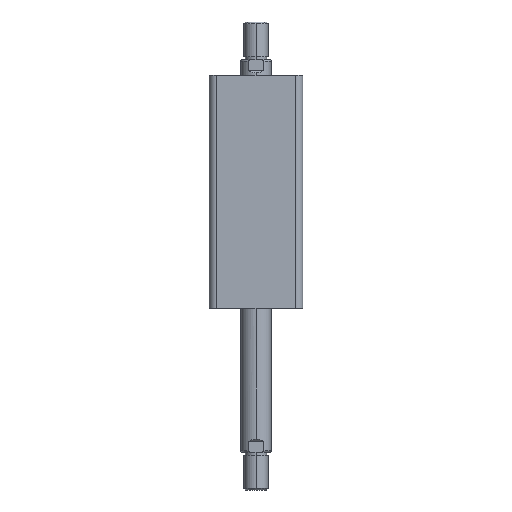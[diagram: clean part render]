
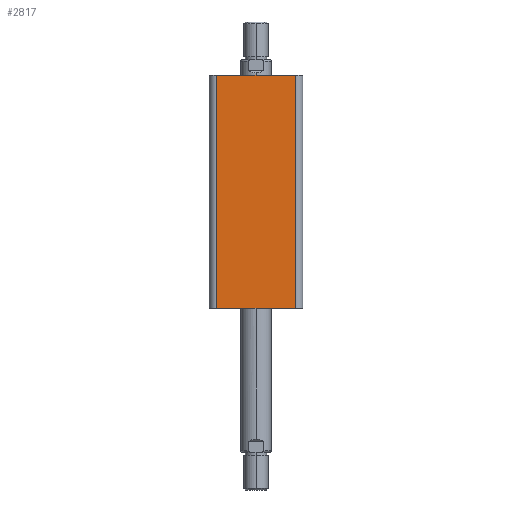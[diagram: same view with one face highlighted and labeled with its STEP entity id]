
A CAD part, left-side view. The second image highlights one B-rep face of the part: STEP entity #2817.
In plain terms, the highlighted planar face has unit normal (-1, 0, 0).
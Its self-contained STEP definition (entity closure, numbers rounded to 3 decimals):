
#118 = CARTESIAN_POINT ( 'NONE',  ( -31., -26., 154. ) ) ;
#119 = CARTESIAN_POINT ( 'NONE',  ( -31., 26., 0. ) ) ;
#123 = CARTESIAN_POINT ( 'NONE',  ( -31., -26., 0. ) ) ;
#152 = CARTESIAN_POINT ( 'NONE',  ( -31., 26., 154. ) ) ;
#267 = CARTESIAN_POINT ( 'NONE',  ( -31., 31., 154. ) ) ;
#275 = PLANE ( 'NONE',  #1603 ) ;
#277 = DIRECTION ( 'NONE',  ( 1., 0., 0. ) ) ;
#278 = DIRECTION ( 'NONE',  ( 0., 1., 0. ) ) ;
#343 = LINE ( 'NONE', #703, #354 ) ;
#349 = LINE ( 'NONE', #714, #352 ) ;
#352 = VECTOR ( 'NONE', #716, 1000. ) ;
#353 = LINE ( 'NONE', #718, #356 ) ;
#354 = VECTOR ( 'NONE', #717, 1000. ) ;
#355 = LINE ( 'NONE', #720, #358 ) ;
#356 = VECTOR ( 'NONE', #719, 1000. ) ;
#358 = VECTOR ( 'NONE', #721, 1000. ) ;
#703 = CARTESIAN_POINT ( 'NONE',  ( -31., 31., 154. ) ) ;
#714 = CARTESIAN_POINT ( 'NONE',  ( -31., 26., 154. ) ) ;
#716 = DIRECTION ( 'NONE',  ( 0., 0., -1. ) ) ;
#717 = DIRECTION ( 'NONE',  ( 0., -1., 0. ) ) ;
#718 = CARTESIAN_POINT ( 'NONE',  ( -31., -26., 154. ) ) ;
#719 = DIRECTION ( 'NONE',  ( 0., 0., 1. ) ) ;
#720 = CARTESIAN_POINT ( 'NONE',  ( -31., 31., 0. ) ) ;
#721 = DIRECTION ( 'NONE',  ( 0., -1., 0. ) ) ;
#1447 = EDGE_LOOP ( 'NONE', ( #2177, #2147, #2148, #2149 ) ) ;
#1603 = AXIS2_PLACEMENT_3D ( 'NONE', #267, #277, #278 ) ;
#2147 = ORIENTED_EDGE ( 'NONE', *, *, #3370, .T. ) ;
#2148 = ORIENTED_EDGE ( 'NONE', *, *, #3369, .F. ) ;
#2149 = ORIENTED_EDGE ( 'NONE', *, *, #3368, .T. ) ;
#2177 = ORIENTED_EDGE ( 'NONE', *, *, #3371, .T. ) ;
#2258 = VERTEX_POINT ( 'NONE', #118 ) ;
#2283 = VERTEX_POINT ( 'NONE', #123 ) ;
#2284 = VERTEX_POINT ( 'NONE', #119 ) ;
#2316 = VERTEX_POINT ( 'NONE', #152 ) ;
#2817 = ADVANCED_FACE ( 'NONE', ( #2922 ), #275, .F. ) ;
#2922 = FACE_OUTER_BOUND ( 'NONE', #1447, .T. ) ;
#3368 = EDGE_CURVE ( 'NONE', #2316, #2284, #349, .T. ) ;
#3369 = EDGE_CURVE ( 'NONE', #2316, #2258, #343, .T. ) ;
#3370 = EDGE_CURVE ( 'NONE', #2283, #2258, #353, .T. ) ;
#3371 = EDGE_CURVE ( 'NONE', #2284, #2283, #355, .T. ) ;
